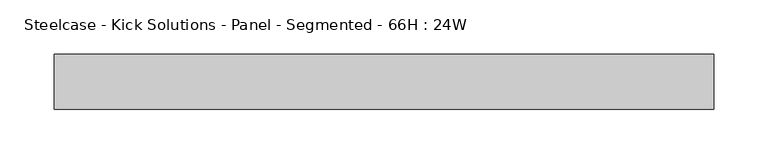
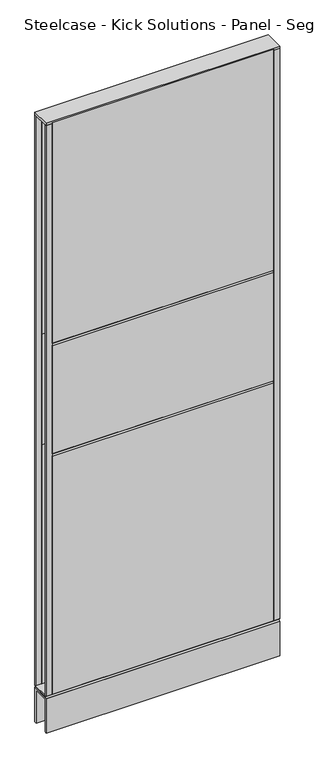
"""IFC4 building model written with IfcOpenShell, lengths in millimetres: furniture geometry, Steelcase - Kick Solutions - Panel - Segmented - 66H : 24W."""

from ifc_helpers import new_model, si_unit, frame, origin, place, context, project, spatial, polyline, outline, extrude, source, transform, mapped, element, save


def steelcase_kick_solutions_panel_segmented_66h_24w_02a95f04(model_context):
    return source(origin(), model_context, "Body", "SweptSolid", [
        extrude(outline(polyline([(1.5e-06, 765.0811552), (-3.175, 762.0), (-3.175, 1066.8), (1.5e-06, 1063.7188448), (1.5e-06, 765.0811552)])), frame((15.8749996, 0.0, 0.0), z_axis=(1.0, 0.0, 0.0), x_axis=(0.0, 1.0, 0.0)), (0.0, 0.0, 1.0), 577.8500008),
        extrude(outline(polyline([(1.5e-06, 1069.8811552), (-3.175, 1066.8), (-3.175, 1676.4), (1.5e-06, 1673.3188448), (1.5e-06, 1069.8811552)])), frame((15.8749996, 0.0, 0.0), z_axis=(1.0, 0.0, 0.0), x_axis=(0.0, 1.0, 0.0)), (0.0, 0.0, 1.0), 577.8500008),
        extrude(outline(polyline([(1.5e-06, 101.600003), (-3.175, 101.600003), (-3.175, 762.0), (1.5e-06, 758.9188448), (1.5e-06, 101.600003)])), frame((15.8749996, 0.0, 0.0), z_axis=(1.0, 0.0, 0.0), x_axis=(0.0, 1.0, 0.0)), (0.0, 0.0, 1.0), 577.8500008),
        extrude(outline(polyline([(-50.8000015, 1069.8811552), (-50.8000015, 1679.448), (-47.625, 1676.4), (-47.625, 1066.8), (-50.8000015, 1069.8811552)])), frame((15.8749996, 0.0, 0.0), z_axis=(1.0, 0.0, 0.0), x_axis=(0.0, 1.0, 0.0)), (0.0, 0.0, 1.0), 577.8500008),
        extrude(outline(polyline([(-50.8000015, 765.0811552), (-50.8000015, 1063.7188448), (-47.625, 1066.8), (-47.625, 762.0), (-50.8000015, 765.0811552)])), frame((15.8749996, 0.0, 0.0), z_axis=(1.0, 0.0, 0.0), x_axis=(0.0, 1.0, 0.0)), (0.0, 0.0, 1.0), 577.8500008),
        extrude(outline(polyline([(-50.8000015, 101.600003), (-50.8000015, 758.9188448), (-47.625, 762.0), (-47.625, 101.600003), (-50.8000015, 101.600003)])), frame((15.8749996, 0.0, 0.0), z_axis=(1.0, 0.0, 0.0), x_axis=(0.0, 1.0, 0.0)), (0.0, 0.0, 1.0), 577.8500008),
        extrude(outline(polyline([(609.6, -3.1750015), (593.7250004, -3.1750015), (593.7250004, 0.0), (609.6, 0.0), (609.6, -3.1750015)])), frame((0.0, 0.0, 101.7169049), z_axis=(0.0, 0.0, 1.0), x_axis=(1.0, 0.0, 0.0)), (0.0, 0.0, 1.0), 1574.799997),
        extrude(outline(polyline([(15.8749996, -50.8000015), (0.0, -50.8000015), (0.0, -47.625), (15.8749996, -47.625), (15.8749996, -50.8000015)])), frame((0.0, 0.0, 101.7169049), z_axis=(0.0, 0.0, 1.0), x_axis=(1.0, 0.0, 0.0)), (0.0, 0.0, 1.0), 1574.799997),
        extrude(outline(polyline([(-50.7995075, 101.7169049), (-0.000494, 101.7169049), (-3.0583512, 98.5421458), (-47.7416503, 98.5421458), (-50.7995075, 101.7169049)])), frame((0.0, 0.0, 0.0), z_axis=(1.0, 0.0, 0.0), x_axis=(0.0, 1.0, 0.0)), (0.0, 0.0, 1.0), 609.6),
        extrude(outline(polyline([(609.6, 0.0), (609.6, -50.8000015), (0.0, -50.8000015), (0.0, 0.0), (609.6, 0.0)])), frame((0.0, 0.0, 1676.5169018), z_axis=(0.0, 0.0, 1.0), x_axis=(1.0, 0.0, 0.0)), (0.0, 0.0, 1.0), 6.35),
        extrude(outline(polyline([(15.8749996, -3.1750015), (0.0, -3.1750015), (0.0, 0.0), (15.8749996, 0.0), (15.8749996, -3.1750015)])), frame((0.0, 0.0, 101.7169049), z_axis=(0.0, 0.0, 1.0), x_axis=(1.0, 0.0, 0.0)), (0.0, 0.0, 1.0), 1574.799997),
        extrude(outline(polyline([(609.6, -50.8000015), (593.7250004, -50.8000015), (593.7250004, -47.625), (609.6, -47.625), (609.6, -50.8000015)])), frame((0.0, 0.0, 101.7169049), z_axis=(0.0, 0.0, 1.0), x_axis=(1.0, 0.0, 0.0)), (0.0, 0.0, 1.0), 1574.799997),
        extrude(outline(polyline([(-50.8000015, 95.3668927), (-47.6247484, 98.5421458), (-3.1752531, 98.5421458), (0.0, 95.3668927), (-50.8000015, 95.3668927)])), frame((0.0, 0.0, 0.0), z_axis=(1.0, 0.0, 0.0), x_axis=(0.0, 1.0, 0.0)), (0.0, 0.0, 1.0), 609.6),
        extrude(outline(polyline([(0.0, 0.0), (-5.08, 0.0), (-5.08, 90.2869018), (-45.7200015, 90.2869018), (-45.7200015, 0.0), (-50.8000015, 0.0), (-50.8000015, 95.3669018), (0.0, 95.3669018), (0.0, 0.0)])), frame((0.0, 0.0, 0.0), z_axis=(1.0, 0.0, 0.0), x_axis=(0.0, 1.0, 0.0)), (0.0, 0.0, 1.0), 609.6),
    ])


if __name__ == "__main__":
    model = new_model("IFC4")
    model_context = context("Model", 3, world=origin())
    ifc_project = project(units=[si_unit("LENGTHUNIT", "METRE", prefix="MILLI")], contexts=[model_context])
    site = spatial("IfcSite", under=ifc_project)
    building = spatial("IfcBuilding", under=site)
    placement = place(None, origin())
    steelcase_kick_solutions_panel_segmented_66h_24w_shape = steelcase_kick_solutions_panel_segmented_66h_24w_02a95f04(model_context)
    element("IfcFurniture", 1, ObjectType="Steelcase - Kick Solutions - Panel - Segmented - 66H : 24W", at=placement, inside=building, context=model_context, shape_type="MappedRepresentation", body=[
        mapped(steelcase_kick_solutions_panel_segmented_66h_24w_shape, transform((0.0, 0.0, 0.0), x_axis=(1.0, 0.0, 0.0), y_axis=(0.0, 1.0, 0.0), z_axis=(0.0, 0.0, 1.0))),
    ])
    save(model, "model.ifc")
